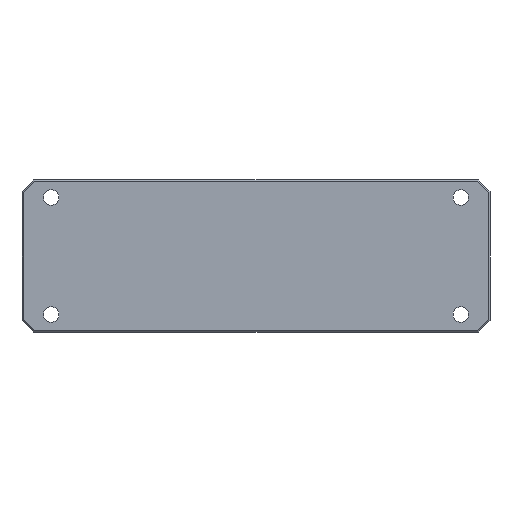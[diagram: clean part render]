
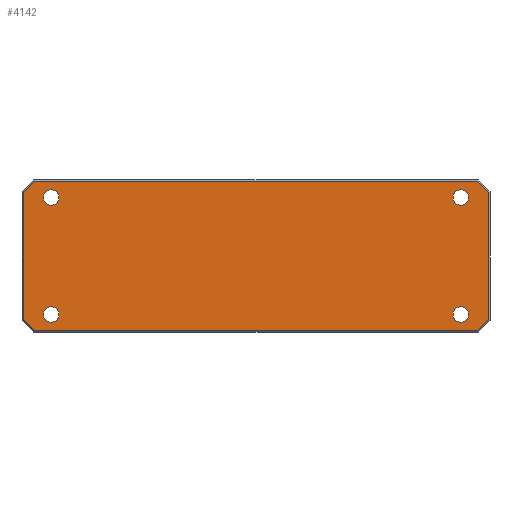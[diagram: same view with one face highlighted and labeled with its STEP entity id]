
A CAD part, front view. The second image highlights one B-rep face of the part: STEP entity #4142.
In plain terms, the highlighted planar face has unit normal (0, -1, 0).
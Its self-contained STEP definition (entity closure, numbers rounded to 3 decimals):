
#29 = VERTEX_POINT ( 'NONE', #12853 ) ;
#104 = CARTESIAN_POINT ( 'NONE',  ( 95.996, -101.2, 168. ) ) ;
#115 = DIRECTION ( 'NONE',  ( 0., -1., 0. ) ) ;
#116 = EDGE_CURVE ( 'NONE', #3172, #5148, #4266, .T. ) ;
#123 = CARTESIAN_POINT ( 'NONE',  ( -98.504, -101.2, 227.293 ) ) ;
#344 = EDGE_CURVE ( 'NONE', #9332, #3668, #13883, .T. ) ;
#480 = ORIENTED_EDGE ( 'NONE', *, *, #2056, .T. ) ;
#547 = AXIS2_PLACEMENT_3D ( 'NONE', #13332, #115, #11358 ) ;
#589 = CARTESIAN_POINT ( 'NONE',  ( 64.393, -101.2, 263.396 ) ) ;
#614 = CARTESIAN_POINT ( 'NONE',  ( -86.504, -101.2, 175. ) ) ;
#776 = CIRCLE ( 'NONE', #6699, 3.3 ) ;
#786 = EDGE_CURVE ( 'NONE', #5686, #3172, #3709, .T. ) ;
#795 = EDGE_CURVE ( 'NONE', #9129, #4685, #1772, .T. ) ;
#820 = DIRECTION ( 'NONE',  ( 0., 0., 1. ) ) ;
#921 = DIRECTION ( 'NONE',  ( 0., 0., 1. ) ) ;
#953 = VECTOR ( 'NONE', #1248, 1000. ) ;
#973 = ORIENTED_EDGE ( 'NONE', *, *, #8408, .F. ) ;
#1138 = EDGE_CURVE ( 'NONE', #14221, #5963, #12296, .T. ) ;
#1248 = DIRECTION ( 'NONE',  ( 0., 0., -1. ) ) ;
#1355 = EDGE_CURVE ( 'NONE', #4831, #29, #2438, .T. ) ;
#1488 = AXIS2_PLACEMENT_3D ( 'NONE', #2465, #2411, #3616 ) ;
#1639 = CARTESIAN_POINT ( 'NONE',  ( -86.504, -101.2, 228.3 ) ) ;
#1666 = DIRECTION ( 'NONE',  ( 0., 0., 1. ) ) ;
#1682 = CARTESIAN_POINT ( 'NONE',  ( -62.4, -101.2, 263.396 ) ) ;
#1760 = VECTOR ( 'NONE', #6218, 1000. ) ;
#1772 = CIRCLE ( 'NONE', #5298, 3.3 ) ;
#2056 = EDGE_CURVE ( 'NONE', #12540, #4887, #9170, .T. ) ;
#2079 = CARTESIAN_POINT ( 'NONE',  ( 88.496, -101.2, 178.3 ) ) ;
#2152 = CARTESIAN_POINT ( 'NONE',  ( -86.504, -101.2, 225. ) ) ;
#2186 = FACE_BOUND ( 'NONE', #2882, .T. ) ;
#2271 = ORIENTED_EDGE ( 'NONE', *, *, #795, .T. ) ;
#2411 = DIRECTION ( 'NONE',  ( 0., -1., 0. ) ) ;
#2438 = CIRCLE ( 'NONE', #547, 3.3 ) ;
#2465 = CARTESIAN_POINT ( 'NONE',  ( -86.504, -101.2, 175. ) ) ;
#2882 = EDGE_LOOP ( 'NONE', ( #973, #13338 ) ) ;
#2952 = CARTESIAN_POINT ( 'NONE',  ( -86.504, -101.2, 171.7 ) ) ;
#3098 = CARTESIAN_POINT ( 'NONE',  ( 88.496, -101.2, 225. ) ) ;
#3172 = VERTEX_POINT ( 'NONE', #8565 ) ;
#3218 = ORIENTED_EDGE ( 'NONE', *, *, #5257, .T. ) ;
#3272 = EDGE_LOOP ( 'NONE', ( #7023, #4089 ) ) ;
#3574 = VECTOR ( 'NONE', #13058, 1000. ) ;
#3616 = DIRECTION ( 'NONE',  ( 0., 0., 1. ) ) ;
#3668 = VERTEX_POINT ( 'NONE', #4555 ) ;
#3709 = LINE ( 'NONE', #12847, #9562 ) ;
#3719 = AXIS2_PLACEMENT_3D ( 'NONE', #11288, #7054, #5858 ) ;
#3745 = VECTOR ( 'NONE', #8802, 1000. ) ;
#3826 = CARTESIAN_POINT ( 'NONE',  ( 64.393, -101.2, 136.604 ) ) ;
#3906 = ORIENTED_EDGE ( 'NONE', *, *, #13745, .T. ) ;
#4089 = ORIENTED_EDGE ( 'NONE', *, *, #14210, .F. ) ;
#4142 = ADVANCED_FACE ( 'NONE', ( #5165, #2186, #12556, #9104, #11002 ), #11334, .T. ) ;
#4179 = CARTESIAN_POINT ( 'NONE',  ( 88.496, -101.2, 225. ) ) ;
#4266 = LINE ( 'NONE', #589, #7544 ) ;
#4414 = EDGE_CURVE ( 'NONE', #4685, #9129, #8914, .T. ) ;
#4555 = CARTESIAN_POINT ( 'NONE',  ( 95.789, -101.2, 168. ) ) ;
#4558 = EDGE_LOOP ( 'NONE', ( #9941, #11663 ) ) ;
#4671 = ORIENTED_EDGE ( 'NONE', *, *, #13018, .T. ) ;
#4685 = VERTEX_POINT ( 'NONE', #7037 ) ;
#4831 = VERTEX_POINT ( 'NONE', #1639 ) ;
#4887 = VERTEX_POINT ( 'NONE', #123 ) ;
#4938 = DIRECTION ( 'NONE',  ( 0.707, 0., 0.707 ) ) ;
#5064 = CARTESIAN_POINT ( 'NONE',  ( -62.4, -101.2, 136.604 ) ) ;
#5068 = AXIS2_PLACEMENT_3D ( 'NONE', #7239, #8297, #1666 ) ;
#5148 = VERTEX_POINT ( 'NONE', #11850 ) ;
#5165 = FACE_OUTER_BOUND ( 'NONE', #9903, .T. ) ;
#5188 = CARTESIAN_POINT ( 'NONE',  ( 88.496, -101.2, 171.7 ) ) ;
#5257 = EDGE_CURVE ( 'NONE', #5148, #12540, #5473, .T. ) ;
#5298 = AXIS2_PLACEMENT_3D ( 'NONE', #3098, #5340, #921 ) ;
#5340 = DIRECTION ( 'NONE',  ( 0., 1., 0. ) ) ;
#5473 = LINE ( 'NONE', #11931, #3574 ) ;
#5571 = VECTOR ( 'NONE', #6171, 1000. ) ;
#5686 = VERTEX_POINT ( 'NONE', #9946 ) ;
#5858 = DIRECTION ( 'NONE',  ( 0., 0., -1. ) ) ;
#5920 = EDGE_CURVE ( 'NONE', #8729, #12822, #776, .T. ) ;
#5963 = VERTEX_POINT ( 'NONE', #5188 ) ;
#6056 = DIRECTION ( 'NONE',  ( 0., -1., 0. ) ) ;
#6066 = EDGE_CURVE ( 'NONE', #3668, #5686, #9055, .T. ) ;
#6171 = DIRECTION ( 'NONE',  ( -0.707, 0., -0.707 ) ) ;
#6218 = DIRECTION ( 'NONE',  ( 0.707, 0., -0.707 ) ) ;
#6223 = DIRECTION ( 'NONE',  ( -0.707, 0., 0.707 ) ) ;
#6268 = DIRECTION ( 'NONE',  ( 0., 0., 1. ) ) ;
#6699 = AXIS2_PLACEMENT_3D ( 'NONE', #614, #6056, #9465 ) ;
#7023 = ORIENTED_EDGE ( 'NONE', *, *, #1355, .F. ) ;
#7037 = CARTESIAN_POINT ( 'NONE',  ( 88.496, -101.2, 221.7 ) ) ;
#7054 = DIRECTION ( 'NONE',  ( 0., -1., 0. ) ) ;
#7239 = CARTESIAN_POINT ( 'NONE',  ( 88.496, -101.2, 175. ) ) ;
#7472 = DIRECTION ( 'NONE',  ( 0., 1., 0. ) ) ;
#7544 = VECTOR ( 'NONE', #6223, 1000. ) ;
#7671 = LINE ( 'NONE', #5064, #1760 ) ;
#7799 = ORIENTED_EDGE ( 'NONE', *, *, #6066, .T. ) ;
#7828 = ORIENTED_EDGE ( 'NONE', *, *, #4414, .T. ) ;
#8297 = DIRECTION ( 'NONE',  ( 0., 1., 0. ) ) ;
#8408 = EDGE_CURVE ( 'NONE', #12822, #8729, #10191, .T. ) ;
#8522 = ORIENTED_EDGE ( 'NONE', *, *, #786, .T. ) ;
#8565 = CARTESIAN_POINT ( 'NONE',  ( 100.496, -101.2, 227.293 ) ) ;
#8602 = CARTESIAN_POINT ( 'NONE',  ( 88.496, -101.2, 175. ) ) ;
#8729 = VERTEX_POINT ( 'NONE', #2952 ) ;
#8784 = DIRECTION ( 'NONE',  ( 0., -1., 0. ) ) ;
#8802 = DIRECTION ( 'NONE',  ( 1., 0., 0. ) ) ;
#8914 = CIRCLE ( 'NONE', #13831, 3.3 ) ;
#9055 = LINE ( 'NONE', #3826, #10616 ) ;
#9104 = FACE_BOUND ( 'NONE', #4558, .T. ) ;
#9129 = VERTEX_POINT ( 'NONE', #10569 ) ;
#9170 = LINE ( 'NONE', #1682, #5571 ) ;
#9332 = VERTEX_POINT ( 'NONE', #11469 ) ;
#9465 = DIRECTION ( 'NONE',  ( 0., 0., 1. ) ) ;
#9536 = EDGE_LOOP ( 'NONE', ( #2271, #7828 ) ) ;
#9562 = VECTOR ( 'NONE', #6268, 1000. ) ;
#9771 = VERTEX_POINT ( 'NONE', #13416 ) ;
#9903 = EDGE_LOOP ( 'NONE', ( #11551, #7799, #8522, #11957, #3218, #480, #4671, #3906 ) ) ;
#9941 = ORIENTED_EDGE ( 'NONE', *, *, #1138, .T. ) ;
#9946 = CARTESIAN_POINT ( 'NONE',  ( 100.496, -101.2, 172.707 ) ) ;
#10191 = CIRCLE ( 'NONE', #1488, 3.3 ) ;
#10569 = CARTESIAN_POINT ( 'NONE',  ( 88.496, -101.2, 228.3 ) ) ;
#10616 = VECTOR ( 'NONE', #4938, 1000. ) ;
#10666 = CARTESIAN_POINT ( 'NONE',  ( -86.504, -101.2, 178.3 ) ) ;
#10702 = DIRECTION ( 'NONE',  ( 0., 0., 1. ) ) ;
#10890 = CARTESIAN_POINT ( 'NONE',  ( -93.797, -101.2, 232. ) ) ;
#11002 = FACE_BOUND ( 'NONE', #9536, .T. ) ;
#11265 = CIRCLE ( 'NONE', #12858, 3.3 ) ;
#11288 = CARTESIAN_POINT ( 'NONE',  ( 0.996, -101.2, 200. ) ) ;
#11334 = PLANE ( 'NONE',  #3719 ) ;
#11358 = DIRECTION ( 'NONE',  ( 0., 0., 1. ) ) ;
#11469 = CARTESIAN_POINT ( 'NONE',  ( -93.797, -101.2, 168. ) ) ;
#11551 = ORIENTED_EDGE ( 'NONE', *, *, #344, .T. ) ;
#11663 = ORIENTED_EDGE ( 'NONE', *, *, #13631, .T. ) ;
#11766 = DIRECTION ( 'NONE',  ( 0., 1., 0. ) ) ;
#11850 = CARTESIAN_POINT ( 'NONE',  ( 95.789, -101.2, 232. ) ) ;
#11931 = CARTESIAN_POINT ( 'NONE',  ( -94.004, -101.2, 232. ) ) ;
#11957 = ORIENTED_EDGE ( 'NONE', *, *, #116, .T. ) ;
#12296 = CIRCLE ( 'NONE', #5068, 3.3 ) ;
#12387 = CARTESIAN_POINT ( 'NONE',  ( -98.504, -101.2, 172.5 ) ) ;
#12540 = VERTEX_POINT ( 'NONE', #10890 ) ;
#12556 = FACE_BOUND ( 'NONE', #3272, .T. ) ;
#12822 = VERTEX_POINT ( 'NONE', #10666 ) ;
#12847 = CARTESIAN_POINT ( 'NONE',  ( 100.496, -101.2, 227.5 ) ) ;
#12853 = CARTESIAN_POINT ( 'NONE',  ( -86.504, -101.2, 221.7 ) ) ;
#12858 = AXIS2_PLACEMENT_3D ( 'NONE', #8602, #7472, #820 ) ;
#12868 = DIRECTION ( 'NONE',  ( 0., 0., 1. ) ) ;
#13018 = EDGE_CURVE ( 'NONE', #4887, #9771, #13197, .T. ) ;
#13058 = DIRECTION ( 'NONE',  ( -1., 0., 0. ) ) ;
#13197 = LINE ( 'NONE', #12387, #953 ) ;
#13332 = CARTESIAN_POINT ( 'NONE',  ( -86.504, -101.2, 225. ) ) ;
#13338 = ORIENTED_EDGE ( 'NONE', *, *, #5920, .F. ) ;
#13416 = CARTESIAN_POINT ( 'NONE',  ( -98.504, -101.2, 172.707 ) ) ;
#13484 = CIRCLE ( 'NONE', #13495, 3.3 ) ;
#13495 = AXIS2_PLACEMENT_3D ( 'NONE', #2152, #8784, #12868 ) ;
#13631 = EDGE_CURVE ( 'NONE', #5963, #14221, #11265, .T. ) ;
#13745 = EDGE_CURVE ( 'NONE', #9771, #9332, #7671, .T. ) ;
#13831 = AXIS2_PLACEMENT_3D ( 'NONE', #4179, #11766, #10702 ) ;
#13883 = LINE ( 'NONE', #104, #3745 ) ;
#14210 = EDGE_CURVE ( 'NONE', #29, #4831, #13484, .T. ) ;
#14221 = VERTEX_POINT ( 'NONE', #2079 ) ;
